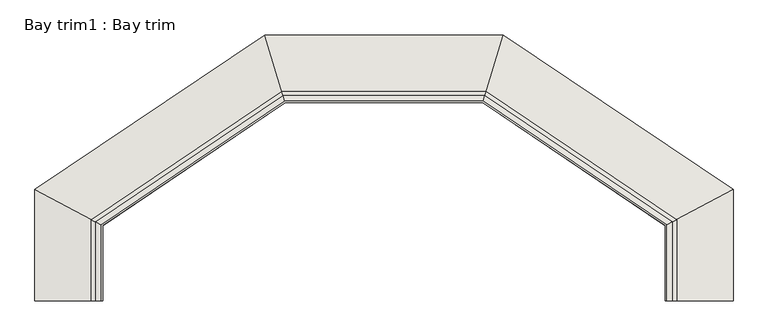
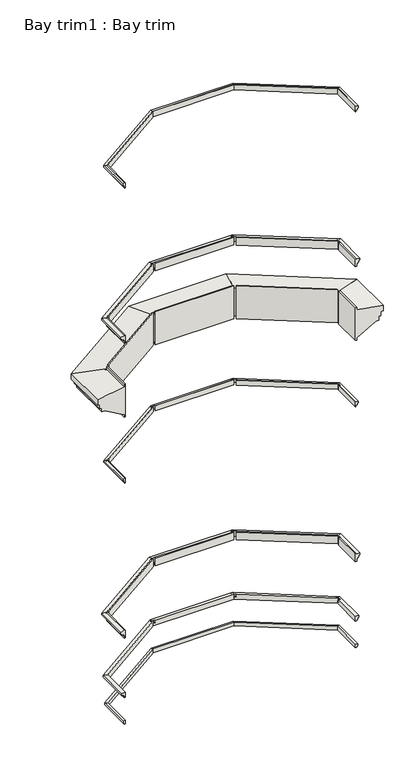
"""IFC4 building model written with IfcOpenShell, lengths in millimetres: wall geometry, Bay trim1 : Bay trim."""

from ifc_helpers import new_model, si_unit, origin, place, context, project, spatial, faceted_brep, source, transform, mapped, element, save


def bay_trim1_bay_trim_52e5bb5f(model_context):
    return source(origin(), model_context, "Body", "Brep", [
        faceted_brep([(-16813.330434, 3509.9935985, 2997.581), (-16800.630434, 3509.9935985, 2997.581), (-16800.630434, 3509.9935985, 3013.456), (-16787.930434, 3509.9935985, 3013.456), (-16787.930434, 3509.9935985, 3037.7976667), (-16813.330434, 3509.9935985, 3042.031), (-16813.330434, 3856.9206963, 2997.581), (-17654.6436095, 4424.3935985, 2997.581), (-18562.8172586, 4424.3935985, 2997.581), (-19404.130434, 3856.9206963, 2997.581), (-19404.130434, 3509.9935985, 2997.581), (-19416.830434, 3509.9935985, 2997.581), (-19416.830434, 3863.6734061, 2997.581), (-18566.7000382, 4437.0935985, 2997.581), (-17650.7608298, 4437.0935985, 2997.581), (-16800.630434, 3863.6734061, 2997.581), (-16800.630434, 3863.6734061, 3013.456), (-17650.7608298, 4437.0935985, 3013.456), (-18566.7000382, 4437.0935985, 3013.456), (-19416.830434, 3863.6734061, 3013.456), (-19416.830434, 3509.9935985, 3013.456), (-19429.530434, 3509.9935985, 3013.456), (-19429.530434, 3870.4261159, 3013.456), (-18570.5828179, 4449.7935985, 3013.456), (-17646.8780502, 4449.7935985, 3013.456), (-16787.930434, 3870.4261159, 3013.456), (-16787.930434, 3870.4261159, 3037.7976667), (-16813.330434, 3856.9206963, 3042.031), (-17646.8780502, 4449.7935985, 3037.7976667), (-17654.6436095, 4424.3935985, 3042.031), (-18570.5828179, 4449.7935985, 3037.7976667), (-18562.8172586, 4424.3935985, 3042.031), (-19429.530434, 3870.4261159, 3037.7976667), (-19404.130434, 3856.9206963, 3042.031), (-19404.130434, 3509.9935985, 3042.031), (-19429.530434, 3509.9935985, 3037.7976667)], [[[0, 1, 2, 3, 4, 5]], [[1, 0, 6, 7, 8, 9, 10, 11, 12, 13, 14, 15]], [[2, 1, 15, 16]], [[3, 2, 16, 17, 18, 19, 20, 21, 22, 23, 24, 25]], [[4, 3, 25, 26]], [[5, 4, 26, 27]], [[0, 5, 27, 6]], [[15, 14, 17, 16]], [[25, 24, 28, 26]], [[27, 26, 28, 29]], [[7, 6, 27, 29]], [[14, 13, 18, 17]], [[24, 23, 30, 28]], [[29, 28, 30, 31]], [[8, 7, 29, 31]], [[13, 12, 19, 18]], [[23, 22, 32, 30]], [[31, 30, 32, 33]], [[9, 8, 31, 33]], [[11, 10, 34, 35, 21, 20]], [[12, 11, 20, 19]], [[22, 21, 35, 32]], [[33, 32, 35, 34]], [[10, 9, 33, 34]]]),
        faceted_brep([(-16813.330434, 3509.9935985, 7048.5), (-16800.630434, 3509.9935985, 7048.5), (-16800.630434, 3831.5206963, 7048.5), (-16813.330434, 3831.5206963, 7048.5), (-16813.330434, 3509.9935985, 6656.3875), (-16813.330434, 3831.5206963, 6656.3875), (-16800.630434, 3509.9935985, 6656.3875), (-16800.630434, 3831.5206963, 6656.3875), (-16800.630434, 3509.9935985, 6681.7875), (-16800.630434, 3831.5206963, 6681.7875), (-16581.555434, 3509.9935985, 6805.6125), (-16800.630434, 3863.6734061, 6681.7875), (-16581.555434, 3980.1576498, 6805.6125), (-16549.805434, 3509.9935985, 6805.6125), (-17583.7828808, 4656.1685985, 6805.6125), (-18633.6779873, 4656.1685985, 6805.6125), (-19635.905434, 3980.1576498, 6805.6125), (-19635.905434, 3509.9935985, 6805.6125), (-19667.655434, 3509.9935985, 6805.6125), (-19667.655434, 3997.0394243, 6805.6125), (-18643.3849364, 4687.9185985, 6805.6125), (-17574.0759317, 4687.9185985, 6805.6125), (-16549.805434, 3997.0394243, 6805.6125), (-16549.805434, 3509.9935985, 6850.0625), (-16549.805434, 3997.0394243, 6850.0625), (-16527.580434, 3509.9935985, 6850.0625), (-17574.0759317, 4687.9185985, 6850.0625), (-18643.3849364, 4687.9185985, 6850.0625), (-19667.655434, 3997.0394243, 6850.0625), (-19667.655434, 3509.9935985, 6850.0625), (-19689.880434, 3509.9935985, 6850.0625), (-19689.880434, 4008.8566664, 6850.0625), (-18650.1798008, 4710.1435985, 6850.0625), (-17567.2810673, 4710.1435985, 6850.0625), (-16527.580434, 4008.8566664, 6850.0625), (-16527.580434, 3509.9935985, 6900.8625), (-16527.580434, 4008.8566664, 6900.8625), (-16502.180434, 3509.9935985, 6900.8625), (-17567.2810673, 4710.1435985, 6900.8625), (-18650.1798008, 4710.1435985, 6900.8625), (-19689.880434, 4008.8566664, 6900.8625), (-19689.880434, 3509.9935985, 6900.8625), (-19715.280434, 3509.9935985, 6900.8625), (-19715.280434, 4022.362086, 6900.8625), (-18657.9453601, 4735.5435985, 6900.8625), (-17559.515508, 4735.5435985, 6900.8625), (-16502.180434, 4022.362086, 6900.8625), (-16502.180434, 3509.9935985, 6967.0083333), (-16502.180434, 4022.362086, 6967.0083333), (-16800.630434, 3509.9935985, 7016.75), (-16800.630434, 3863.6734061, 7016.75), (-16800.630434, 3831.5206963, 7016.75), (-17633.5860552, 4410.1900987, 6656.3875), (-16813.330434, 3856.9206963, 6656.3875), (-16813.330434, 3856.9206963, 7048.5), (-17633.5860552, 4410.1900987, 7048.5), (-17626.4843053, 4420.7188759, 6656.3875), (-17626.4843053, 4420.7188759, 6681.7875), (-16813.330434, 3872.2396643, 6681.7875), (-16813.330434, 3872.2396643, 6656.3875), (-16800.630434, 3882.3206963, 6690.5253676), (-16813.330434, 3882.3206963, 6686.5113351), (-17650.7608298, 4437.0935985, 6681.7875), (-17559.515508, 4735.5435985, 6967.0083333), (-17650.7608298, 4437.0935985, 7016.75), (-17626.4843053, 4420.7188759, 7016.75), (-16813.330434, 3872.2396643, 7016.75), (-16813.330434, 3882.3206963, 7015.3570743), (-16800.630434, 3882.3206963, 7014.1734493), (-17626.4843053, 4420.7188759, 7048.5), (-16813.330434, 3872.2396643, 7048.5), (-17654.6436095, 4424.3935985, 6656.3875), (-17654.6436095, 4424.3935985, 7048.5), (-18537.4172586, 4424.3935985, 7048.5), (-18537.4172586, 4424.3935985, 6656.3875), (-17673.4721338, 4437.0935985, 6681.7875), (-17673.4721338, 4437.0935985, 6656.3875), (-18537.4172586, 4437.0935985, 6656.3875), (-18537.4172586, 4437.0935985, 6681.7875), (-17668.599414, 4449.1258754, 6688.5883522), (-17675.7011638, 4438.5970982, 6682.6373042), (-18566.7000382, 4437.0935985, 6681.7875), (-18657.9453601, 4735.5435985, 6967.0083333), (-18566.7000382, 4437.0935985, 7016.75), (-18537.4172586, 4437.0935985, 7016.75), (-17673.4721338, 4437.0935985, 7016.75), (-17675.7011638, 4438.5970982, 7016.4994167), (-17668.599414, 4449.1258754, 7014.7446205), (-17673.4721338, 4437.0935985, 7048.5), (-18537.4172586, 4437.0935985, 7048.5), (-18562.8172586, 4424.3935985, 6656.3875), (-18562.8172586, 4424.3935985, 7048.5), (-19383.0728797, 3871.1241961, 7048.5), (-19383.0728797, 3871.1241961, 6656.3875), (-18585.5285625, 4424.3935985, 6681.7875), (-18585.5285625, 4424.3935985, 6656.3875), (-19390.1746296, 3881.6529732, 6656.3875), (-19390.1746296, 3881.6529732, 6681.7875), (-18588.2172586, 4437.0935985, 6688.5883522), (-18588.2172586, 4424.3935985, 6682.6373042), (-19416.830434, 3863.6734061, 6681.7875), (-19715.280434, 4022.362086, 6967.0083333), (-19416.830434, 3863.6734061, 7016.75), (-19390.1746296, 3881.6529732, 7016.75), (-18585.5285625, 4424.3935985, 7016.75), (-18588.2172586, 4424.3935985, 7016.4994167), (-18588.2172586, 4437.0935985, 7014.7446205), (-18585.5285625, 4424.3935985, 7048.5), (-19390.1746296, 3881.6529732, 7048.5), (-19404.130434, 3856.9206963, 7048.5), (-19404.130434, 3509.9935985, 7048.5), (-19404.130434, 3509.9935985, 6656.3875), (-19404.130434, 3856.9206963, 6656.3875), (-19416.830434, 3509.9935985, 6656.3875), (-19416.830434, 3509.9935985, 6681.7875), (-19416.830434, 3848.3544381, 6681.7875), (-19416.830434, 3848.3544381, 6656.3875), (-19432.2897383, 3853.2459737, 6690.5253676), (-19425.1879884, 3842.7171966, 6686.5113351), (-19715.280434, 3509.9935985, 6967.0083333), (-19416.830434, 3509.9935985, 7016.75), (-19416.830434, 3848.3544381, 7016.75), (-19425.1879884, 3842.7171966, 7015.3570743), (-19432.2897383, 3853.2459737, 7014.1734493), (-19416.830434, 3509.9935985, 7048.5), (-19416.830434, 3848.3544381, 7048.5)], [[[0, 1, 2, 3]], [[4, 0, 3, 5]], [[6, 4, 5, 7]], [[8, 6, 7, 9]], [[10, 8, 9, 11, 12]], [[13, 10, 12, 14, 15, 16, 17, 18, 19, 20, 21, 22]], [[23, 13, 22, 24]], [[25, 23, 24, 26, 27, 28, 29, 30, 31, 32, 33, 34]], [[35, 25, 34, 36]], [[37, 35, 36, 38, 39, 40, 41, 42, 43, 44, 45, 46]], [[47, 37, 46, 48]], [[49, 47, 48, 50, 51]], [[1, 49, 51, 2]], [[52, 53, 54, 55]], [[56, 57, 58, 59]], [[12, 11, 60, 61, 58, 57, 62, 14]], [[22, 21, 26, 24]], [[34, 33, 38, 36]], [[46, 45, 63, 48]], [[50, 48, 63, 64, 65, 66, 67, 68]], [[65, 69, 70, 66]], [[71, 72, 73, 74]], [[75, 76, 77, 78]], [[15, 14, 62, 79, 80, 75, 78, 81]], [[21, 20, 27, 26]], [[33, 32, 39, 38]], [[45, 44, 82, 63]], [[64, 63, 82, 83, 84, 85, 86, 87]], [[88, 85, 84, 89]], [[90, 91, 92, 93]], [[94, 95, 96, 97]], [[16, 15, 81, 98, 99, 94, 97, 100]], [[20, 19, 28, 27]], [[32, 31, 40, 39]], [[44, 43, 101, 82]], [[83, 82, 101, 102, 103, 104, 105, 106]], [[107, 104, 103, 108]], [[109, 110, 111, 112]], [[113, 114, 115, 116]], [[17, 16, 100, 117, 118, 115, 114]], [[19, 18, 29, 28]], [[31, 30, 41, 40]], [[43, 42, 119, 101]], [[102, 101, 119, 120, 121, 122, 123]], [[120, 124, 125, 121]], [[1, 0, 4, 6, 8, 10, 13, 23, 25, 35, 37, 47, 49]], [[124, 110, 109, 125]], [[112, 111, 113, 116]], [[110, 124, 120, 119, 42, 41, 30, 29, 18, 17, 114, 113, 111]], [[57, 65, 64, 87, 79, 62]], [[79, 87, 86, 80]], [[80, 86, 85, 88, 72, 71, 76, 75]], [[65, 57, 56, 52, 55, 69]], [[55, 54, 70, 69]], [[53, 52, 56, 59]], [[9, 51, 50, 68, 60, 11]], [[60, 68, 67, 61]], [[61, 67, 66, 70, 54, 53, 59, 58]], [[51, 9, 7, 5, 3, 2]], [[72, 88, 89, 73]], [[76, 71, 74, 77]], [[78, 84, 83, 106, 98, 81]], [[105, 99, 98, 106]], [[99, 105, 104, 107, 91, 90, 95, 94]], [[84, 78, 77, 74, 73, 89]], [[91, 107, 108, 92]], [[95, 90, 93, 96]], [[97, 103, 102, 123, 117, 100]], [[117, 123, 122, 118]], [[118, 122, 121, 125, 109, 112, 116, 115]], [[103, 97, 96, 93, 92, 108]]]),
        faceted_brep([(-16800.630434, 3509.9935985, 7566.025), (-16800.630434, 3509.9935985, 7534.275), (-16800.630434, 3831.5206963, 7534.275), (-16800.630434, 3831.5206963, 7566.025), (-16787.930434, 3509.9935985, 7566.025), (-16800.630434, 3863.6734061, 7566.025), (-16800.630434, 3878.992374, 7566.025), (-16787.930434, 3870.4261159, 7566.025), (-16787.930434, 3509.9935985, 7581.9), (-16787.930434, 3870.4261159, 7581.9), (-16775.230434, 3509.9935985, 7581.9), (-16800.630434, 3878.992374, 7581.9), (-16800.630434, 3882.3206963, 7581.9), (-16805.5648747, 3882.3206963, 7581.9), (-17646.8780502, 4449.7935985, 7581.9), (-18570.5828179, 4449.7935985, 7581.9), (-19429.530434, 3870.4261159, 7581.9), (-19429.530434, 3855.1071479, 7581.9), (-19432.2897383, 3853.2459737, 7581.9), (-19429.530434, 3849.155137, 7581.9), (-19429.530434, 3509.9935985, 7581.9), (-19442.230434, 3509.9935985, 7581.9), (-19442.230434, 3877.1788257, 7581.9), (-18574.4655975, 4462.4935985, 7581.9), (-17642.9952705, 4462.4935985, 7581.9), (-16775.230434, 3877.1788257, 7581.9), (-16775.230434, 3509.9935985, 7597.775), (-16775.230434, 3877.1788257, 7597.775), (-16762.530434, 3509.9935985, 7597.775), (-17642.9952705, 4462.4935985, 7597.775), (-18574.4655975, 4462.4935985, 7597.775), (-19442.230434, 3877.1788257, 7597.775), (-19442.230434, 3509.9935985, 7597.775), (-19454.930434, 3509.9935985, 7597.775), (-19454.930434, 3883.9315354, 7597.775), (-18578.3483772, 4475.1935985, 7597.775), (-17639.1124909, 4475.1935985, 7597.775), (-16762.530434, 3883.9315354, 7597.775), (-16762.530434, 3509.9935985, 7620.0), (-16762.530434, 3883.9315354, 7620.0), (-16800.630434, 3509.9935985, 7626.35), (-16800.630434, 3863.6734061, 7626.35), (-16800.630434, 3831.5206963, 7626.35), (-16813.330434, 3509.9935985, 7626.35), (-16813.330434, 3831.5206963, 7626.35), (-16813.330434, 3509.9935985, 7534.275), (-16813.330434, 3831.5206963, 7534.275), (-17626.4843053, 4420.7188759, 7534.275), (-17626.4843053, 4420.7188759, 7566.025), (-16813.330434, 3872.2396643, 7566.025), (-16813.330434, 3872.2396643, 7534.275), (-17639.1124909, 4475.1935985, 7620.0), (-17650.7608298, 4437.0935985, 7626.35), (-17626.4843053, 4420.7188759, 7626.35), (-16813.330434, 3872.2396643, 7626.35), (-16813.330434, 3882.3206963, 7624.9570743), (-16800.630434, 3882.3206963, 7623.7734493), (-17633.5860552, 4410.1900987, 7534.275), (-16813.330434, 3856.9206963, 7534.275), (-16813.330434, 3856.9206963, 7626.35), (-17633.5860552, 4410.1900987, 7626.35), (-17673.4721338, 4437.0935985, 7566.025), (-17673.4721338, 4437.0935985, 7534.275), (-18537.4172586, 4437.0935985, 7534.275), (-18537.4172586, 4437.0935985, 7566.025), (-17646.8780502, 4449.7935985, 7566.025), (-18570.5828179, 4449.7935985, 7566.025), (-18578.3483772, 4475.1935985, 7620.0), (-18566.7000382, 4437.0935985, 7626.35), (-18537.4172586, 4437.0935985, 7626.35), (-17673.4721338, 4437.0935985, 7626.35), (-17675.7011638, 4438.5970982, 7626.0994167), (-17668.599414, 4449.1258754, 7624.3446205), (-17654.6436095, 4424.3935985, 7534.275), (-17654.6436095, 4424.3935985, 7626.35), (-18537.4172586, 4424.3935985, 7626.35), (-18537.4172586, 4424.3935985, 7534.275), (-18585.5285625, 4424.3935985, 7566.025), (-18585.5285625, 4424.3935985, 7534.275), (-19390.1746296, 3881.6529732, 7534.275), (-19390.1746296, 3881.6529732, 7566.025), (-19429.530434, 3870.4261159, 7566.025), (-19454.930434, 3883.9315354, 7620.0), (-19416.830434, 3863.6734061, 7626.35), (-19390.1746296, 3881.6529732, 7626.35), (-18585.5285625, 4424.3935985, 7626.35), (-18588.2172586, 4424.3935985, 7626.0994167), (-18588.2172586, 4437.0935985, 7624.3446205), (-18562.8172586, 4424.3935985, 7534.275), (-18562.8172586, 4424.3935985, 7626.35), (-19383.0728797, 3871.1241961, 7626.35), (-19383.0728797, 3871.1241961, 7534.275), (-19416.830434, 3509.9935985, 7534.275), (-19416.830434, 3509.9935985, 7566.025), (-19416.830434, 3848.3544381, 7566.025), (-19416.830434, 3848.3544381, 7534.275), (-19429.530434, 3855.1071479, 7566.025), (-19454.930434, 3509.9935985, 7620.0), (-19416.830434, 3509.9935985, 7626.35), (-19416.830434, 3848.3544381, 7626.35), (-19425.1879884, 3842.7171966, 7624.9570743), (-19432.2897383, 3853.2459737, 7623.7734493), (-19404.130434, 3856.9206963, 7626.35), (-19404.130434, 3509.9935985, 7626.35), (-19404.130434, 3509.9935985, 7534.275), (-19404.130434, 3856.9206963, 7534.275), (-17668.599414, 4449.1258754, 7566.025), (-17650.7608298, 4437.0935985, 7566.025), (-17675.7011638, 4438.5970982, 7566.025), (-19429.530434, 3509.9935985, 7566.025), (-16813.330434, 3882.3206963, 7566.025), (-16805.5648747, 3882.3206963, 7566.025), (-19429.530434, 3849.155137, 7566.025), (-19425.1879884, 3842.7171966, 7566.025), (-18588.2172586, 4437.0935985, 7566.025), (-18566.7000382, 4437.0935985, 7566.025), (-18588.2172586, 4424.3935985, 7566.025), (-19416.830434, 3863.6734061, 7566.025)], [[[0, 1, 2, 3]], [[4, 0, 3, 5, 6, 7]], [[8, 4, 7, 9]], [[10, 8, 9, 11, 12, 13, 14, 15, 16, 17, 18, 19, 20, 21, 22, 23, 24, 25]], [[26, 10, 25, 27]], [[28, 26, 27, 29, 30, 31, 32, 33, 34, 35, 36, 37]], [[38, 28, 37, 39]], [[40, 38, 39, 41, 42]], [[43, 40, 42, 44]], [[45, 43, 44, 46]], [[1, 45, 46, 2]], [[47, 48, 49, 50]], [[9, 7, 6, 11]], [[25, 24, 29, 27]], [[37, 36, 51, 39]], [[41, 39, 51, 52, 53, 54, 55, 56]], [[57, 58, 59, 60]], [[61, 62, 63, 64]], [[65, 66, 15, 14]], [[24, 23, 30, 29]], [[36, 35, 67, 51]], [[52, 51, 67, 68, 69, 70, 71, 72]], [[73, 74, 75, 76]], [[77, 78, 79, 80]], [[66, 81, 16, 15]], [[23, 22, 31, 30]], [[35, 34, 82, 67]], [[68, 67, 82, 83, 84, 85, 86, 87]], [[88, 89, 90, 91]], [[92, 93, 94, 95]], [[16, 81, 96, 17]], [[22, 21, 32, 31]], [[34, 33, 97, 82]], [[83, 82, 97, 98, 99, 100, 101]], [[102, 103, 104, 105]], [[48, 53, 52, 72, 106, 107]], [[106, 72, 71, 108]], [[108, 71, 70, 74, 73, 62, 61]], [[53, 48, 47, 57, 60]], [[1, 0, 4, 8, 10, 26, 28, 38, 40, 43, 45]], [[98, 103, 102, 99]], [[105, 104, 92, 95]], [[109, 93, 92, 104, 103, 98, 97, 33, 32, 21, 20]], [[3, 42, 41, 56, 12, 11, 6, 5]], [[12, 56, 55, 110, 111, 13]], [[110, 55, 54, 59, 58, 50, 49]], [[42, 3, 2, 46, 44]], [[93, 109, 112, 113, 94]], [[60, 59, 54, 53]], [[58, 57, 47, 50]], [[65, 14, 13, 111]], [[64, 69, 68, 87, 114, 115]], [[86, 116, 114, 87]], [[116, 86, 85, 89, 88, 78, 77]], [[69, 64, 63, 76, 75]], [[74, 70, 69, 75]], [[62, 73, 76, 63]], [[80, 84, 83, 101, 18, 17, 96, 117]], [[18, 101, 100, 113, 112, 19]], [[113, 100, 99, 102, 105, 95, 94]], [[84, 80, 79, 91, 90]], [[109, 20, 19, 112]], [[89, 85, 84, 90]], [[78, 88, 91, 79]], [[81, 66, 65, 111, 110, 49, 48, 107, 106, 108, 61, 64, 115, 114, 116, 77, 80, 117, 96]]]),
        faceted_brep([(-16806.980434, 3509.9935985, 9398.0), (-16806.980434, 3509.9935985, 9378.95), (-16806.980434, 3860.2970512, 9378.95), (-16806.980434, 3860.2970512, 9398.0), (-16794.280434, 3509.9935985, 9398.0), (-17652.7022197, 4430.7435985, 9398.0), (-18564.7586484, 4430.7435985, 9398.0), (-19410.480434, 3860.2970512, 9398.0), (-19410.480434, 3509.9935985, 9398.0), (-19423.180434, 3509.9935985, 9398.0), (-19423.180434, 3867.049761, 9398.0), (-18568.6414281, 4443.4435985, 9398.0), (-17648.81944, 4443.4435985, 9398.0), (-16794.280434, 3867.049761, 9398.0), (-16794.280434, 3509.9935985, 9413.875), (-16794.280434, 3867.049761, 9413.875), (-16781.580434, 3509.9935985, 9413.875), (-17648.81944, 4443.4435985, 9413.875), (-18568.6414281, 4443.4435985, 9413.875), (-19423.180434, 3867.049761, 9413.875), (-19423.180434, 3509.9935985, 9413.875), (-19435.880434, 3509.9935985, 9413.875), (-19435.880434, 3873.8024708, 9413.875), (-18572.5242077, 4456.1435985, 9413.875), (-17644.9366604, 4456.1435985, 9413.875), (-16781.580434, 3873.8024708, 9413.875), (-16781.580434, 3509.9935985, 9438.2166667), (-16781.580434, 3873.8024708, 9438.2166667), (-16806.980434, 3509.9935985, 9442.45), (-16806.980434, 3860.2970512, 9442.45), (-16813.330434, 3509.9935985, 9442.45), (-17652.7022197, 4430.7435985, 9442.45), (-18564.7586484, 4430.7435985, 9442.45), (-19410.480434, 3860.2970512, 9442.45), (-19410.480434, 3509.9935985, 9442.45), (-19404.130434, 3509.9935985, 9442.45), (-19404.130434, 3856.9206963, 9442.45), (-18562.8172586, 4424.3935985, 9442.45), (-17654.6436095, 4424.3935985, 9442.45), (-16813.330434, 3856.9206963, 9442.45), (-16813.330434, 3509.9935985, 9378.95), (-16813.330434, 3856.9206963, 9378.95), (-17654.6436095, 4424.3935985, 9378.95), (-18562.8172586, 4424.3935985, 9378.95), (-19404.130434, 3856.9206963, 9378.95), (-19404.130434, 3509.9935985, 9378.95), (-19410.480434, 3509.9935985, 9378.95), (-19410.480434, 3860.2970512, 9378.95), (-18564.7586484, 4430.7435985, 9378.95), (-17652.7022197, 4430.7435985, 9378.95), (-17644.9366604, 4456.1435985, 9438.2166667), (-18572.5242077, 4456.1435985, 9438.2166667), (-19435.880434, 3873.8024708, 9438.2166667), (-19435.880434, 3509.9935985, 9438.2166667)], [[[0, 1, 2, 3]], [[4, 0, 3, 5, 6, 7, 8, 9, 10, 11, 12, 13]], [[14, 4, 13, 15]], [[16, 14, 15, 17, 18, 19, 20, 21, 22, 23, 24, 25]], [[26, 16, 25, 27]], [[28, 26, 27, 29]], [[30, 28, 29, 31, 32, 33, 34, 35, 36, 37, 38, 39]], [[40, 30, 39, 41]], [[1, 40, 41, 42, 43, 44, 45, 46, 47, 48, 49, 2]], [[3, 2, 49, 5]], [[13, 12, 17, 15]], [[25, 24, 50, 27]], [[29, 27, 50, 31]], [[39, 38, 42, 41]], [[6, 5, 49, 48]], [[12, 11, 18, 17]], [[24, 23, 51, 50]], [[32, 31, 50, 51]], [[38, 37, 43, 42]], [[7, 6, 48, 47]], [[11, 10, 19, 18]], [[23, 22, 52, 51]], [[33, 32, 51, 52]], [[37, 36, 44, 43]], [[8, 7, 47, 46]], [[10, 9, 20, 19]], [[22, 21, 53, 52]], [[34, 33, 52, 53]], [[36, 35, 45, 44]], [[1, 0, 4, 14, 16, 26, 28, 30, 40]], [[9, 8, 46, 45, 35, 34, 53, 21, 20]]]),
        faceted_brep([(-16800.630434, 3509.9935985, 4054.475), (-16800.630434, 3509.9935985, 4022.725), (-16800.630434, 3831.5206963, 4022.725), (-16800.630434, 3831.5206963, 4054.475), (-16787.930434, 3509.9935985, 4054.475), (-16800.630434, 3863.6734061, 4054.475), (-16800.630434, 3878.992374, 4054.475), (-16787.930434, 3870.4261159, 4054.475), (-16787.930434, 3509.9935985, 4070.35), (-16787.930434, 3870.4261159, 4070.35), (-16775.230434, 3509.9935985, 4070.35), (-16800.630434, 3878.992374, 4070.35), (-16800.630434, 3882.3206963, 4070.35), (-16805.5648747, 3882.3206963, 4070.35), (-17646.8780502, 4449.7935985, 4070.35), (-18570.5828179, 4449.7935985, 4070.35), (-19429.530434, 3870.4261159, 4070.35), (-19429.530434, 3855.1071479, 4070.35), (-19432.2897383, 3853.2459737, 4070.35), (-19429.530434, 3849.155137, 4070.35), (-19429.530434, 3509.9935985, 4070.35), (-19442.230434, 3509.9935985, 4070.35), (-19442.230434, 3877.1788257, 4070.35), (-18574.4655975, 4462.4935985, 4070.35), (-17642.9952705, 4462.4935985, 4070.35), (-16775.230434, 3877.1788257, 4070.35), (-16775.230434, 3509.9935985, 4086.225), (-16775.230434, 3877.1788257, 4086.225), (-16762.530434, 3509.9935985, 4086.225), (-17642.9952705, 4462.4935985, 4086.225), (-18574.4655975, 4462.4935985, 4086.225), (-19442.230434, 3877.1788257, 4086.225), (-19442.230434, 3509.9935985, 4086.225), (-19454.930434, 3509.9935985, 4086.225), (-19454.930434, 3883.9315354, 4086.225), (-18578.3483772, 4475.1935985, 4086.225), (-17639.1124909, 4475.1935985, 4086.225), (-16762.530434, 3883.9315354, 4086.225), (-16762.530434, 3509.9935985, 4108.45), (-16762.530434, 3883.9315354, 4108.45), (-16800.630434, 3509.9935985, 4114.8), (-16800.630434, 3863.6734061, 4114.8), (-16800.630434, 3831.5206963, 4114.8), (-16813.330434, 3509.9935985, 4114.8), (-16813.330434, 3831.5206963, 4114.8), (-16813.330434, 3509.9935985, 4022.725), (-16813.330434, 3831.5206963, 4022.725), (-17626.4843053, 4420.7188759, 4022.725), (-17626.4843053, 4420.7188759, 4054.475), (-16813.330434, 3872.2396643, 4054.475), (-16813.330434, 3872.2396643, 4022.725), (-17639.1124909, 4475.1935985, 4108.45), (-17650.7608298, 4437.0935985, 4114.8), (-17626.4843053, 4420.7188759, 4114.8), (-16813.330434, 3872.2396643, 4114.8), (-16813.330434, 3882.3206963, 4113.4070743), (-16800.630434, 3882.3206963, 4112.2234493), (-17633.5860552, 4410.1900987, 4022.725), (-16813.330434, 3856.9206963, 4022.725), (-16813.330434, 3856.9206963, 4114.8), (-17633.5860552, 4410.1900987, 4114.8), (-17673.4721338, 4437.0935985, 4054.475), (-17673.4721338, 4437.0935985, 4022.725), (-18537.4172586, 4437.0935985, 4022.725), (-18537.4172586, 4437.0935985, 4054.475), (-17646.8780502, 4449.7935985, 4054.475), (-18570.5828179, 4449.7935985, 4054.475), (-18578.3483772, 4475.1935985, 4108.45), (-18566.7000382, 4437.0935985, 4114.8), (-18537.4172586, 4437.0935985, 4114.8), (-17673.4721338, 4437.0935985, 4114.8), (-17675.7011638, 4438.5970982, 4114.5494167), (-17668.599414, 4449.1258754, 4112.7946205), (-17654.6436095, 4424.3935985, 4022.725), (-17654.6436095, 4424.3935985, 4114.8), (-18537.4172586, 4424.3935985, 4114.8), (-18537.4172586, 4424.3935985, 4022.725), (-18585.5285625, 4424.3935985, 4054.475), (-18585.5285625, 4424.3935985, 4022.725), (-19390.1746296, 3881.6529732, 4022.725), (-19390.1746296, 3881.6529732, 4054.475), (-19429.530434, 3870.4261159, 4054.475), (-19454.930434, 3883.9315354, 4108.45), (-19416.830434, 3863.6734061, 4114.8), (-19390.1746296, 3881.6529732, 4114.8), (-18585.5285625, 4424.3935985, 4114.8), (-18588.2172586, 4424.3935985, 4114.5494167), (-18588.2172586, 4437.0935985, 4112.7946205), (-18562.8172586, 4424.3935985, 4022.725), (-18562.8172586, 4424.3935985, 4114.8), (-19383.0728797, 3871.1241961, 4114.8), (-19383.0728797, 3871.1241961, 4022.725), (-19416.830434, 3509.9935985, 4022.725), (-19416.830434, 3509.9935985, 4054.475), (-19416.830434, 3848.3544381, 4054.475), (-19416.830434, 3848.3544381, 4022.725), (-19429.530434, 3855.1071479, 4054.475), (-19454.930434, 3509.9935985, 4108.45), (-19416.830434, 3509.9935985, 4114.8), (-19416.830434, 3848.3544381, 4114.8), (-19425.1879884, 3842.7171966, 4113.4070743), (-19432.2897383, 3853.2459737, 4112.2234493), (-19404.130434, 3856.9206963, 4114.8), (-19404.130434, 3509.9935985, 4114.8), (-19404.130434, 3509.9935985, 4022.725), (-19404.130434, 3856.9206963, 4022.725), (-19429.530434, 3509.9935985, 4054.475), (-17668.599414, 4449.1258754, 4054.475), (-17650.7608298, 4437.0935985, 4054.475), (-17675.7011638, 4438.5970982, 4054.475), (-19429.530434, 3849.155137, 4054.475), (-19425.1879884, 3842.7171966, 4054.475), (-16805.5648747, 3882.3206963, 4054.475), (-16813.330434, 3882.3206963, 4054.475), (-18588.2172586, 4437.0935985, 4054.475), (-18566.7000382, 4437.0935985, 4054.475), (-18588.2172586, 4424.3935985, 4054.475), (-19416.830434, 3863.6734061, 4054.475)], [[[0, 1, 2, 3]], [[4, 0, 3, 5, 6, 7]], [[8, 4, 7, 9]], [[10, 8, 9, 11, 12, 13, 14, 15, 16, 17, 18, 19, 20, 21, 22, 23, 24, 25]], [[26, 10, 25, 27]], [[28, 26, 27, 29, 30, 31, 32, 33, 34, 35, 36, 37]], [[38, 28, 37, 39]], [[40, 38, 39, 41, 42]], [[43, 40, 42, 44]], [[45, 43, 44, 46]], [[1, 45, 46, 2]], [[47, 48, 49, 50]], [[9, 7, 6, 11]], [[25, 24, 29, 27]], [[37, 36, 51, 39]], [[41, 39, 51, 52, 53, 54, 55, 56]], [[57, 58, 59, 60]], [[61, 62, 63, 64]], [[65, 66, 15, 14]], [[24, 23, 30, 29]], [[36, 35, 67, 51]], [[52, 51, 67, 68, 69, 70, 71, 72]], [[73, 74, 75, 76]], [[77, 78, 79, 80]], [[66, 81, 16, 15]], [[23, 22, 31, 30]], [[35, 34, 82, 67]], [[68, 67, 82, 83, 84, 85, 86, 87]], [[88, 89, 90, 91]], [[92, 93, 94, 95]], [[16, 81, 96, 17]], [[22, 21, 32, 31]], [[34, 33, 97, 82]], [[83, 82, 97, 98, 99, 100, 101]], [[102, 103, 104, 105]], [[1, 0, 4, 8, 10, 26, 28, 38, 40, 43, 45]], [[98, 103, 102, 99]], [[105, 104, 92, 95]], [[106, 93, 92, 104, 103, 98, 97, 33, 32, 21, 20]], [[48, 53, 52, 72, 107, 108]], [[107, 72, 71, 109]], [[109, 71, 70, 74, 73, 62, 61]], [[53, 48, 47, 57, 60]], [[93, 106, 110, 111, 94]], [[60, 59, 54, 53]], [[58, 57, 47, 50]], [[65, 14, 13, 112]], [[3, 42, 41, 56, 12, 11, 6, 5]], [[12, 56, 55, 113, 112, 13]], [[113, 55, 54, 59, 58, 50, 49]], [[42, 3, 2, 46, 44]], [[74, 70, 69, 75]], [[62, 73, 76, 63]], [[64, 69, 68, 87, 114, 115]], [[86, 116, 114, 87]], [[116, 86, 85, 89, 88, 78, 77]], [[69, 64, 63, 76, 75]], [[106, 20, 19, 110]], [[89, 85, 84, 90]], [[78, 88, 91, 79]], [[81, 66, 65, 112, 113, 49, 48, 108, 107, 109, 61, 64, 115, 114, 116, 77, 80, 117, 96]], [[80, 84, 83, 101, 18, 17, 96, 117]], [[18, 101, 100, 111, 110, 19]], [[111, 100, 99, 102, 105, 95, 94]], [[84, 80, 79, 91, 90]]]),
        faceted_brep([(-16806.980434, 3509.9935985, 5886.45), (-16806.980434, 3509.9935985, 5867.4), (-16806.980434, 3831.5206963, 5867.4), (-16806.980434, 3831.5206963, 5886.45), (-16794.280434, 3509.9935985, 5886.45), (-16800.630434, 3831.5206963, 5886.45), (-16800.630434, 3871.3328901, 5886.45), (-16794.280434, 3867.049761, 5886.45), (-16794.280434, 3509.9935985, 5902.325), (-16794.280434, 3867.049761, 5902.325), (-16781.580434, 3509.9935985, 5902.325), (-16800.630434, 3871.3328901, 5902.325), (-16800.630434, 3882.3206963, 5902.325), (-16813.330434, 3882.3206963, 5902.325), (-16813.330434, 3879.8991482, 5902.325), (-17648.81944, 4443.4435985, 5902.325), (-17660.175092, 4443.4435985, 5902.325), (-17668.599414, 4449.1258754, 5902.325), (-17672.4321581, 4443.4435985, 5902.325), (-18568.6414281, 4443.4435985, 5902.325), (-18578.0556902, 4437.0935985, 5902.325), (-18588.2172586, 4437.0935985, 5902.325), (-18588.2172586, 4430.2395341, 5902.325), (-19423.180434, 3867.049761, 5902.325), (-19423.180434, 3859.390277, 5902.325), (-19432.2897383, 3853.2459737, 5902.325), (-19425.1879884, 3842.7171966, 5902.325), (-19423.180434, 3844.0713091, 5902.325), (-19423.180434, 3509.9935985, 5902.325), (-19435.880434, 3509.9935985, 5902.325), (-19435.880434, 3873.8024708, 5902.325), (-18572.5242077, 4456.1435985, 5902.325), (-17644.9366604, 4456.1435985, 5902.325), (-16781.580434, 3873.8024708, 5902.325), (-16781.580434, 3509.9935985, 5921.9041667), (-16781.580434, 3873.8024708, 5921.9041667), (-16806.980434, 3509.9935985, 5926.1375), (-16800.630434, 3863.6734061, 5925.0791667), (-16800.630434, 3831.5206963, 5925.0791667), (-16806.980434, 3831.5206963, 5926.1375), (-16813.330434, 3509.9935985, 5926.1375), (-16813.330434, 3831.5206963, 5926.1375), (-16813.330434, 3509.9935985, 5867.4), (-16813.330434, 3831.5206963, 5867.4), (-17630.0351802, 4415.4544873, 5867.4), (-17630.0351802, 4415.4544873, 5886.45), (-16813.330434, 3864.5801803, 5886.45), (-16813.330434, 3864.5801803, 5867.4), (-17644.9366604, 4456.1435985, 5921.9041667), (-17650.7608298, 4437.0935985, 5925.0791667), (-17626.4843053, 4420.7188759, 5925.0791667), (-17630.0351802, 4415.4544873, 5926.1375), (-16813.330434, 3864.5801803, 5926.1375), (-16813.330434, 3882.3206963, 5923.6862409), (-16800.630434, 3882.3206963, 5922.502616), (-17633.5860552, 4410.1900987, 5867.4), (-16813.330434, 3856.9206963, 5867.4), (-16813.330434, 3856.9206963, 5926.1375), (-17633.5860552, 4410.1900987, 5926.1375), (-17664.0578716, 4430.7435985, 5886.45), (-17664.0578716, 4430.7435985, 5867.4), (-18537.4172586, 4430.7435985, 5867.4), (-18537.4172586, 4430.7435985, 5886.45), (-17648.81944, 4443.4435985, 5886.45), (-17660.175092, 4443.4435985, 5886.45), (-18572.5242077, 4456.1435985, 5921.9041667), (-18566.7000382, 4437.0935985, 5925.0791667), (-18537.4172586, 4437.0935985, 5925.0791667), (-18537.4172586, 4430.7435985, 5926.1375), (-17664.0578716, 4430.7435985, 5926.1375), (-17675.7011638, 4438.5970982, 5924.8285834), (-17668.599414, 4449.1258754, 5923.0737872), (-17654.6436095, 4424.3935985, 5867.4), (-17654.6436095, 4424.3935985, 5926.1375), (-18537.4172586, 4424.3935985, 5926.1375), (-18537.4172586, 4424.3935985, 5867.4), (-18574.1729106, 4424.3935985, 5886.45), (-18574.1729106, 4424.3935985, 5867.4), (-19386.6237546, 3876.3885846, 5867.4), (-19386.6237546, 3876.3885846, 5886.45), (-18568.6414281, 4443.4435985, 5886.45), (-18578.0556902, 4437.0935985, 5886.45), (-19435.880434, 3873.8024708, 5921.9041667), (-19416.830434, 3863.6734061, 5925.0791667), (-19390.1746296, 3881.6529732, 5925.0791667), (-19386.6237546, 3876.3885846, 5926.1375), (-18574.1729106, 4424.3935985, 5926.1375), (-18588.2172586, 4424.3935985, 5924.8285834), (-18588.2172586, 4437.0935985, 5923.0737872), (-18562.8172586, 4424.3935985, 5867.4), (-18562.8172586, 4424.3935985, 5926.1375), (-19383.0728797, 3871.1241961, 5926.1375), (-19383.0728797, 3871.1241961, 5867.4), (-19410.480434, 3509.9935985, 5867.4), (-19410.480434, 3509.9935985, 5886.45), (-19410.480434, 3852.6375672, 5886.45), (-19410.480434, 3852.6375672, 5867.4), (-19423.180434, 3867.049761, 5886.45), (-19423.180434, 3859.390277, 5886.45), (-19435.880434, 3509.9935985, 5921.9041667), (-19410.480434, 3509.9935985, 5926.1375), (-19410.480434, 3852.6375672, 5926.1375), (-19425.1879884, 3842.7171966, 5923.6862409), (-19432.2897383, 3853.2459737, 5922.502616), (-19404.130434, 3856.9206963, 5926.1375), (-19404.130434, 3509.9935985, 5926.1375), (-19404.130434, 3509.9935985, 5867.4), (-19404.130434, 3856.9206963, 5867.4), (-19423.180434, 3509.9935985, 5886.45), (-19423.180434, 3844.0713091, 5886.45), (-17672.4321581, 4443.4435985, 5886.45), (-17626.4843053, 4420.7188759, 5886.45), (-17675.7011638, 4438.5970982, 5886.45), (-16813.330434, 3879.8991482, 5886.45), (-18588.2172586, 4430.2395341, 5886.45), (-18537.4172586, 4437.0935985, 5886.45), (-18588.2172586, 4424.3935985, 5886.45), (-19390.1746296, 3881.6529732, 5886.45)], [[[0, 1, 2, 3]], [[4, 0, 3, 5, 6, 7]], [[8, 4, 7, 9]], [[10, 8, 9, 11, 12, 13, 14, 15, 16, 17, 18, 19, 20, 21, 22, 23, 24, 25, 26, 27, 28, 29, 30, 31, 32, 33]], [[34, 10, 33, 35]], [[36, 34, 35, 37, 38, 39]], [[40, 36, 39, 41]], [[42, 40, 41, 43]], [[1, 42, 43, 2]], [[44, 45, 46, 47]], [[9, 7, 6, 11]], [[33, 32, 48, 35]], [[35, 48, 49, 50, 51, 52, 53, 54, 37]], [[55, 56, 57, 58]], [[59, 60, 61, 62]], [[15, 63, 64, 16]], [[32, 31, 65, 48]], [[48, 65, 66, 67, 68, 69, 70, 71, 49]], [[72, 73, 74, 75]], [[76, 77, 78, 79]], [[19, 80, 81, 20]], [[31, 30, 82, 65]], [[65, 82, 83, 84, 85, 86, 87, 88, 66]], [[89, 90, 91, 92]], [[93, 94, 95, 96]], [[23, 97, 98, 24]], [[30, 29, 99, 82]], [[99, 100, 101, 102, 103, 83, 82]], [[104, 105, 106, 107]], [[1, 0, 4, 8, 10, 34, 36, 40, 42]], [[94, 108, 109, 95]], [[100, 105, 104, 101]], [[107, 106, 93, 96]], [[80, 19, 18, 110]], [[108, 94, 93, 106, 105, 100, 99, 29, 28]], [[111, 50, 49, 71, 17, 16, 64]], [[17, 71, 70, 112, 110, 18]], [[112, 70, 69, 73, 72, 60, 59]], [[50, 111, 45, 44, 55, 58, 51]], [[64, 63, 113, 46, 45, 111]], [[58, 57, 52, 51]], [[56, 55, 44, 47]], [[63, 15, 14, 113]], [[5, 38, 37, 54, 12, 11, 6]], [[12, 54, 53, 13]], [[13, 53, 52, 57, 56, 47, 46, 113, 14]], [[38, 5, 3, 2, 43, 41, 39]], [[97, 23, 22, 114]], [[80, 110, 112, 59, 62, 115, 81]], [[73, 69, 68, 74]], [[60, 72, 75, 61]], [[115, 67, 66, 88, 21, 20, 81]], [[87, 116, 114, 22, 21, 88]], [[116, 87, 86, 90, 89, 77, 76]], [[67, 115, 62, 61, 75, 74, 68]], [[108, 28, 27, 109]], [[97, 114, 116, 76, 79, 117, 98]], [[90, 86, 85, 91]], [[77, 89, 92, 78]], [[117, 84, 83, 103, 25, 24, 98]], [[25, 103, 102, 26]], [[26, 102, 101, 104, 107, 96, 95, 109, 27]], [[84, 117, 79, 78, 92, 91, 85]]]),
        faceted_brep([(-16800.630434, 3509.9935985, 3314.7935033), (-16813.330434, 3509.9935985, 3314.7935033), (-16813.330434, 3856.9206963, 3314.7935033), (-17654.6436095, 4424.3935985, 3314.7935033), (-18562.8172586, 4424.3935985, 3314.7935033), (-19404.130434, 3856.9206963, 3314.7935033), (-19404.130434, 3509.9935985, 3314.7935033), (-19416.830434, 3509.9935985, 3314.7935033), (-19416.830434, 3863.6734061, 3314.7935033), (-18566.7000382, 4437.0935985, 3314.7935033), (-17650.7608298, 4437.0935985, 3314.7935033), (-16800.630434, 3863.6734061, 3314.7935033), (-16800.630434, 3509.9935985, 3330.6685033), (-16800.630434, 3863.6734061, 3330.6685033), (-16787.930434, 3509.9935985, 3330.6685033), (-17650.7608298, 4437.0935985, 3330.6685033), (-18566.7000382, 4437.0935985, 3330.6685033), (-19416.830434, 3863.6734061, 3330.6685033), (-19416.830434, 3509.9935985, 3330.6685033), (-19429.530434, 3509.9935985, 3330.6685033), (-19429.530434, 3870.4261159, 3330.6685033), (-18570.5828179, 4449.7935985, 3330.6685033), (-17646.8780502, 4449.7935985, 3330.6685033), (-16787.930434, 3870.4261159, 3330.6685033), (-16787.930434, 3509.9935985, 3346.5435033), (-16787.930434, 3870.4261159, 3346.5435033), (-16775.230434, 3509.9935985, 3346.5435033), (-16800.630434, 3878.992374, 3346.5435033), (-16800.630434, 3882.3206963, 3346.5435033), (-16805.5648747, 3882.3206963, 3346.5435033), (-17646.8780502, 4449.7935985, 3346.5435033), (-18570.5828179, 4449.7935985, 3346.5435033), (-19429.530434, 3870.4261159, 3346.5435033), (-19429.530434, 3509.9935985, 3346.5435033), (-19442.230434, 3509.9935985, 3346.5435033), (-19442.230434, 3877.1788257, 3346.5435033), (-18574.4655975, 4462.4935985, 3346.5435033), (-17642.9952705, 4462.4935985, 3346.5435033), (-16775.230434, 3877.1788257, 3346.5435033), (-16775.230434, 3509.9935985, 3368.7685033), (-16775.230434, 3877.1788257, 3368.7685033), (-16813.330434, 3509.9935985, 3375.1185033), (-16800.630434, 3863.6734061, 3373.0018366), (-16800.630434, 3831.5206963, 3373.0018366), (-16813.330434, 3831.5206963, 3375.1185033), (-16813.330434, 3831.5206963, 3346.5435033), (-16813.330434, 3856.9206963, 3346.5435033), (-17642.9952705, 4462.4935985, 3368.7685033), (-17650.7608298, 4437.0935985, 3373.0018366), (-17626.4843053, 4420.7188759, 3373.0018366), (-17633.5860552, 4410.1900987, 3375.1185033), (-16813.330434, 3856.9206963, 3375.1185033), (-16813.330434, 3882.3206963, 3371.6089109), (-16800.630434, 3882.3206963, 3370.4252859), (-17633.5860552, 4410.1900987, 3346.5435033), (-17654.6436095, 4424.3935985, 3346.5435033), (-18574.4655975, 4462.4935985, 3368.7685033), (-18566.7000382, 4437.0935985, 3373.0018366), (-18537.4172586, 4437.0935985, 3373.0018366), (-18537.4172586, 4424.3935985, 3375.1185033), (-17654.6436095, 4424.3935985, 3375.1185033), (-17675.7011638, 4438.5970982, 3372.7512534), (-17668.599414, 4449.1258754, 3370.9964572), (-18537.4172586, 4424.3935985, 3346.5435033), (-18562.8172586, 4424.3935985, 3346.5435033), (-19442.230434, 3877.1788257, 3368.7685033), (-19404.130434, 3856.9206963, 3375.1185033), (-19383.0728797, 3871.1241961, 3375.1185033), (-18562.8172586, 4424.3935985, 3375.1185033), (-18588.2172586, 4424.3935985, 3372.7512534), (-18588.2172586, 4437.0935985, 3370.9964572), (-19442.230434, 3509.9935985, 3368.7685033), (-19404.130434, 3509.9935985, 3375.1185033), (-17626.4843053, 4420.7188759, 3346.5435033), (-17668.599414, 4449.1258754, 3346.5435033), (-17675.7011638, 4438.5970982, 3346.5435033), (-16800.630434, 3831.5206963, 3346.5435033), (-16813.330434, 3882.3206963, 3346.5435033), (-18537.4172586, 4437.0935985, 3346.5435033), (-18588.2172586, 4437.0935985, 3346.5435033), (-18588.2172586, 4424.3935985, 3346.5435033)], [[[0, 1, 2, 3, 4, 5, 6, 7, 8, 9, 10, 11]], [[12, 0, 11, 13]], [[14, 12, 13, 15, 16, 17, 18, 19, 20, 21, 22, 23]], [[24, 14, 23, 25]], [[26, 24, 25, 27, 28, 29, 30, 31, 32, 33, 34, 35, 36, 37, 38]], [[39, 26, 38, 40]], [[41, 39, 40, 42, 43, 44]], [[1, 41, 44, 45, 46, 2]], [[11, 10, 15, 13]], [[23, 22, 30, 29, 27, 25]], [[38, 37, 47, 40]], [[40, 47, 48, 49, 50, 51, 52, 53, 42]], [[3, 2, 46, 51, 50, 54, 55]], [[10, 9, 16, 15]], [[22, 21, 31, 30]], [[37, 36, 56, 47]], [[47, 56, 57, 58, 59, 60, 61, 62, 48]], [[4, 3, 55, 60, 59, 63, 64]], [[9, 8, 17, 16]], [[21, 20, 32, 31]], [[36, 35, 65, 56]], [[56, 65, 66, 67, 68, 69, 70, 57]], [[5, 4, 64, 68, 67, 66]], [[8, 7, 18, 17]], [[20, 19, 33, 32]], [[35, 34, 71, 65]], [[66, 65, 71, 72]], [[6, 5, 66, 72]], [[54, 73, 74, 75, 55]], [[1, 0, 12, 14, 24, 26, 39, 41]], [[7, 6, 72, 71, 34, 33, 19, 18]], [[74, 73, 49, 48, 62]], [[75, 74, 62, 61]], [[55, 75, 61, 60]], [[73, 54, 50, 49]], [[45, 76, 27, 29, 77, 46]], [[27, 76, 43, 42, 53, 28]], [[77, 29, 28, 53, 52]], [[46, 77, 52, 51]], [[76, 45, 44, 43]], [[63, 78, 79, 80, 64]], [[79, 78, 58, 57, 70]], [[80, 79, 70, 69]], [[64, 80, 69, 68]], [[78, 63, 59, 58]]]),
    ])


if __name__ == "__main__":
    model = new_model("IFC4")
    model_context = context("Model", 3, world=origin())
    ifc_project = project(units=[si_unit("LENGTHUNIT", "METRE", prefix="MILLI")], contexts=[model_context])
    site = spatial("IfcSite", under=ifc_project)
    building = spatial("IfcBuilding", under=site)
    placement = place(None, origin())
    bay_trim1_bay_trim_shape = bay_trim1_bay_trim_52e5bb5f(model_context)
    element("IfcWall", 1, ObjectType="Bay trim1 : Bay trim", at=placement, inside=building, context=model_context, shape_type="MappedRepresentation", body=[
        mapped(bay_trim1_bay_trim_shape, transform((0.0, 0.0, 0.0), x_axis=(1.0, 0.0, 0.0), y_axis=(0.0, 1.0, 0.0), z_axis=(0.0, 0.0, 1.0))),
    ])
    save(model, "model.ifc")
